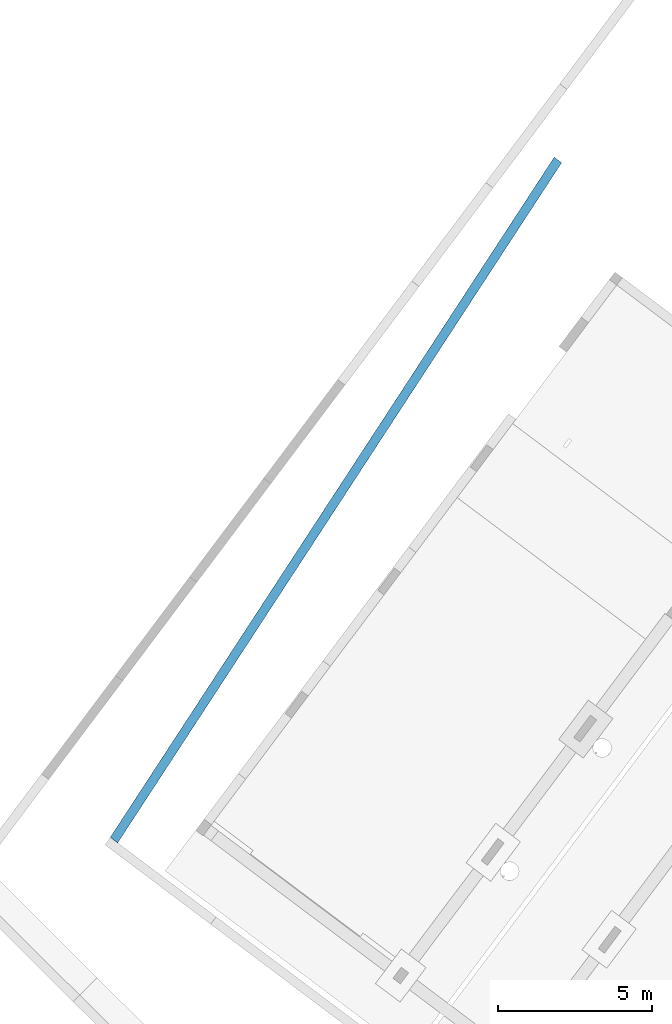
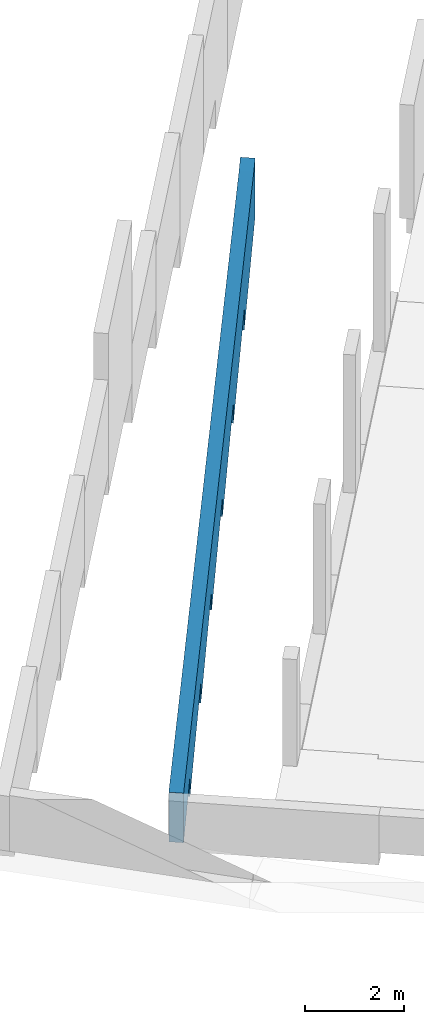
# One storey, part 24 of 24: 1 wall.
"""IFC2X3 building model written with IfcOpenShell, lengths in metres."""

from ifc_helpers import new_model, entity, si_unit, converted_unit, derived_unit, direction, frame, origin, place, context, subcontext, project, spatial, faceted_brep, material, layer, layer_set, type_object, element, save


model = new_model("IFC2X3")

# Units and contexts
model_context = context("Model", 3, precision=1e-05, world=origin(), true_north=direction((6.123031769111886e-17, 1.0)))
body_context = subcontext(model_context, "Body", "Model", "MODEL_VIEW")
ifc_project = project(units=[si_unit("LENGTHUNIT", "METRE"), si_unit("AREAUNIT", "SQUARE_METRE"), si_unit("VOLUMEUNIT", "CUBIC_METRE"), converted_unit("PLANEANGLEUNIT", "DEGREE", entity("IfcRatioMeasure", 0.017453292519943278), si_unit("PLANEANGLEUNIT", "RADIAN"), dimensions=[0, 0, 0, 0, 0, 0, 0]), si_unit("MASSUNIT", "GRAM", prefix="KILO"), derived_unit("MASSDENSITYUNIT", [(si_unit("MASSUNIT", "GRAM", prefix="KILO"), 1), (si_unit("LENGTHUNIT", "METRE"), -3)]), derived_unit("IONCONCENTRATIONUNIT", [(si_unit("MASSUNIT", "GRAM", prefix="KILO"), 1), (si_unit("LENGTHUNIT", "METRE"), -3)]), derived_unit("MOMENTOFINERTIAUNIT", [(si_unit("LENGTHUNIT", "METRE"), 4)]), si_unit("TIMEUNIT", "SECOND"), si_unit("FREQUENCYUNIT", "HERTZ"), si_unit("THERMODYNAMICTEMPERATUREUNIT", "DEGREE_CELSIUS"), derived_unit("THERMALTRANSMITTANCEUNIT", [(si_unit("MASSUNIT", "GRAM", prefix="KILO"), 1), (si_unit("THERMODYNAMICTEMPERATUREUNIT", "KELVIN"), -1), (si_unit("TIMEUNIT", "SECOND"), -3)]), derived_unit("THERMALCONDUCTANCEUNIT", [(si_unit("MASSUNIT", "GRAM", prefix="KILO"), 1), (si_unit("THERMODYNAMICTEMPERATUREUNIT", "KELVIN"), -1), (si_unit("TIMEUNIT", "SECOND"), -3), (si_unit("LENGTHUNIT", "METRE"), 1)]), derived_unit("VOLUMETRICFLOWRATEUNIT", [(si_unit("LENGTHUNIT", "METRE"), 3), (si_unit("TIMEUNIT", "SECOND"), -1)]), derived_unit("MASSFLOWRATEUNIT", [(si_unit("MASSUNIT", "GRAM", prefix="KILO"), 1), (si_unit("TIMEUNIT", "SECOND"), -1)]), derived_unit("ROTATIONALFREQUENCYUNIT", [(si_unit("TIMEUNIT", "SECOND"), -1)]), si_unit("ELECTRICCURRENTUNIT", "AMPERE"), si_unit("ELECTRICVOLTAGEUNIT", "VOLT"), si_unit("POWERUNIT", "WATT"), si_unit("FORCEUNIT", "NEWTON", prefix="KILO"), si_unit("ILLUMINANCEUNIT", "LUX"), si_unit("LUMINOUSFLUXUNIT", "LUMEN"), si_unit("LUMINOUSINTENSITYUNIT", "CANDELA"), derived_unit("USERDEFINED", [(si_unit("MASSUNIT", "GRAM", prefix="KILO"), -1), (si_unit("LENGTHUNIT", "METRE"), -2), (si_unit("TIMEUNIT", "SECOND"), 3), (si_unit("LUMINOUSFLUXUNIT", "LUMEN"), 1)]), derived_unit("USERDEFINED", [(si_unit("MASSUNIT", "GRAM", prefix="KILO"), 1), (si_unit("TIMEUNIT", "SECOND"), -3), (si_unit("LENGTHUNIT", "METRE"), 3), (si_unit("ELECTRICCURRENTUNIT", "AMPERE"), -2)]), derived_unit("SOUNDPOWERUNIT", [(si_unit("MASSUNIT", "GRAM", prefix="KILO"), 1), (si_unit("TIMEUNIT", "SECOND"), -3), (si_unit("LENGTHUNIT", "METRE"), 2)]), derived_unit("SOUNDPRESSUREUNIT", [(si_unit("MASSUNIT", "GRAM", prefix="KILO"), 1), (si_unit("LENGTHUNIT", "METRE"), -1), (si_unit("TIMEUNIT", "SECOND"), -2)]), derived_unit("LINEARVELOCITYUNIT", [(si_unit("LENGTHUNIT", "METRE"), 1), (si_unit("TIMEUNIT", "SECOND"), -1)]), si_unit("PRESSUREUNIT", "PASCAL"), derived_unit("USERDEFINED", [(si_unit("MASSUNIT", "GRAM", prefix="KILO"), 1), (si_unit("LENGTHUNIT", "METRE"), -2), (si_unit("TIMEUNIT", "SECOND"), -2)]), derived_unit("LINEARFORCEUNIT", [(si_unit("MASSUNIT", "GRAM", prefix="KILO"), 1), (si_unit("TIMEUNIT", "SECOND"), -2)]), derived_unit("PLANARFORCEUNIT", [(si_unit("MASSUNIT", "GRAM", prefix="KILO"), 1), (si_unit("LENGTHUNIT", "METRE"), -1), (si_unit("TIMEUNIT", "SECOND"), -2)]), derived_unit("SPECIFICHEATCAPACITYUNIT", [(si_unit("THERMODYNAMICTEMPERATUREUNIT", "KELVIN"), -1), (si_unit("LENGTHUNIT", "METRE"), 2), (si_unit("TIMEUNIT", "SECOND"), -2)]), derived_unit("HEATINGVALUEUNIT", [(si_unit("LENGTHUNIT", "METRE"), 2), (si_unit("TIMEUNIT", "SECOND"), -2)]), derived_unit("VAPORPERMEABILITYUNIT", [(si_unit("LENGTHUNIT", "METRE"), -1), (si_unit("TIMEUNIT", "SECOND"), 1)]), derived_unit("DYNAMICVISCOSITYUNIT", [(si_unit("MASSUNIT", "GRAM", prefix="KILO"), 1), (si_unit("TIMEUNIT", "SECOND"), -1), (si_unit("LENGTHUNIT", "METRE"), -1)]), derived_unit("THERMALEXPANSIONCOEFFICIENTUNIT", [(si_unit("THERMODYNAMICTEMPERATUREUNIT", "KELVIN"), -1)]), derived_unit("MODULUSOFELASTICITYUNIT", [(si_unit("MASSUNIT", "GRAM", prefix="KILO"), 1), (si_unit("LENGTHUNIT", "METRE"), -1), (si_unit("TIMEUNIT", "SECOND"), -2)]), derived_unit("ISOTHERMALMOISTURECAPACITYUNIT", [(si_unit("LENGTHUNIT", "METRE"), 3), (si_unit("MASSUNIT", "GRAM", prefix="KILO"), -1)]), derived_unit("MOISTUREDIFFUSIVITYUNIT", [(si_unit("TIMEUNIT", "SECOND"), -1), (si_unit("LENGTHUNIT", "METRE"), 2)])], contexts=[model_context])

# Site, building, storey
site_placement = place(None, origin())
site = spatial("IfcSite", under=ifc_project, at=site_placement, Name="Default", CompositionType="ELEMENT")
building_placement = place(site_placement, frame((0.0, 0.0, 235.0), z_axis=(0.0, 0.0, 1.0), x_axis=(-0.7996477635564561, 0.6004693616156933, 0.0)))
building = spatial("IfcBuilding", under=site, at=building_placement, CompositionType="ELEMENT")
storey_placement = place(building_placement, origin())
storey = spatial("IfcBuildingStorey", under=building, at=storey_placement, Name="P0- Escola", CompositionType="ELEMENT", Elevation=0.0)

# Wall
ifc_material = material(Name="_Formigó- T1- STR")
ifc_layer = layer(ifc_material, 0.29999999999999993)
ifc_layer_set = layer_set([ifc_layer], Name="Muro básico:STR- M- Formigó- Genèric- T1- 30 cm")
wall_type = type_object("IfcWallType", Name="Muro básico:STR- M- Formigó- Genèric- T1- 30 cm", PredefinedType="STANDARD", material=ifc_layer_set)
wall_placement = place(storey_placement, frame((78.40790981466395, -44.15037907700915, -3.799999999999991), z_axis=(0.0, 0.0, 1.0), x_axis=(-0.06571293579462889, 0.9978385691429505, 0.0)))
element("IfcWall", 1, at=wall_placement, inside=storey, type_object=wall_type, Name="Muro básico:STR- M- Formigó- Genèric- T1- 30 cm", ObjectType="Muro básico:STR- M- Formigó- Genèric- T1- 30 cm", context=body_context, shape_type="Brep", body=[
    faceted_brep([(26.35406259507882, -0.15000000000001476, 4.219000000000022), (26.21426580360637, -0.15000000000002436, 4.219000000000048), (0.460203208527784, -0.1500000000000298, 1.4249999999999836), (0.3006498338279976, -0.15000000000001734, 1.4249999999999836), (0.0, -0.15000000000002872, 1.4249999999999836), (0.0, -0.15000000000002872, 0.0), (0.3006498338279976, -0.15000000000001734, 0.0), (4.028197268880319, -0.15000000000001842, 0.0), (4.028197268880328, -0.15000000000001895, 0.5), (8.028197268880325, -0.15000000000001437, 0.5), (8.02819726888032, -0.1500000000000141, 1.0), (12.028197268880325, -0.15000000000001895, 1.0), (12.028197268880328, -0.15000000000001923, 1.5000000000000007), (16.02819726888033, -0.15000000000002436, 1.5000000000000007), (16.028197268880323, -0.15000000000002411, 2.0), (20.02819726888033, -0.1500000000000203, 2.0), (20.02819726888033, -0.1500000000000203, 2.5), (24.02819726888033, -0.15000000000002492, 2.5), (24.02819726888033, -0.15000000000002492, 3.0), (26.35406259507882, -0.15000000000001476, 3.0), (26.37381917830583, 0.1499999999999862, 4.219000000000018), (26.37381917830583, 0.14999999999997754, 3.0), (24.02819726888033, 0.14999999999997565, 3.0), (24.02819726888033, 0.14999999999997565, 2.5), (20.028197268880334, 0.1499999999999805, 2.5), (20.028197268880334, 0.1499999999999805, 2.0), (16.028197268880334, 0.14999999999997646, 2.0), (16.028197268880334, 0.14999999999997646, 1.5000000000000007), (12.028197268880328, 0.14999999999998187, 1.5000000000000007), (12.028197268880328, 0.14999999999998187, 1.0), (8.028197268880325, 0.1499999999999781, 1.0), (8.028197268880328, 0.14999999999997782, 0.5), (4.028197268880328, 0.14999999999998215, 0.5), (4.028197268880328, 0.14999999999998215, 0.0), (0.019756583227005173, 0.14999999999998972, 0.0), (0.019756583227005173, 0.14999999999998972, 1.4249999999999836), (0.460203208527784, 0.14999999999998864, 1.4249999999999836), (26.21426580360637, 0.1499999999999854, 4.219000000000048)], [[[0, 1, 2, 3, 4, 5, 6, 7, 8, 9, 10, 11, 12, 13, 14, 15, 16, 17, 18, 19]], [[20, 21, 22, 23, 24, 25, 26, 27, 28, 29, 30, 31, 32, 33, 34, 35, 36, 37]], [[0, 19, 21, 20]], [[1, 0, 20, 37]], [[4, 3, 2, 36, 35]], [[7, 6, 5, 34, 33]], [[8, 7, 33, 32]], [[9, 8, 32, 31]], [[10, 9, 31, 30]], [[11, 10, 30, 29]], [[12, 11, 29, 28]], [[13, 12, 28, 27]], [[14, 13, 27, 26]], [[15, 14, 26, 25]], [[16, 15, 25, 24]], [[17, 16, 24, 23]], [[18, 17, 23, 22]], [[19, 18, 22, 21]], [[2, 1, 37, 36]], [[5, 4, 35, 34]]]),
])

save(model, "model.ifc")
